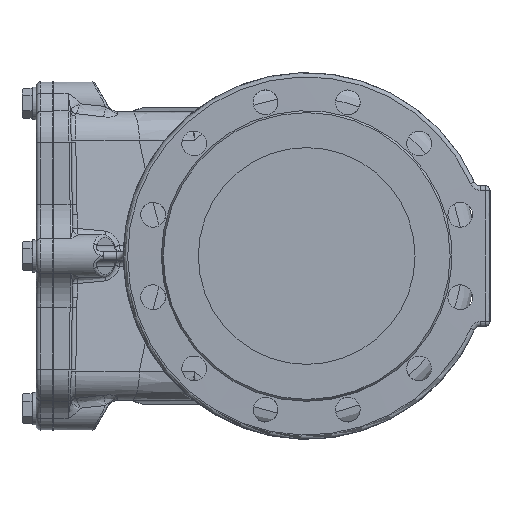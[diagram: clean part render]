
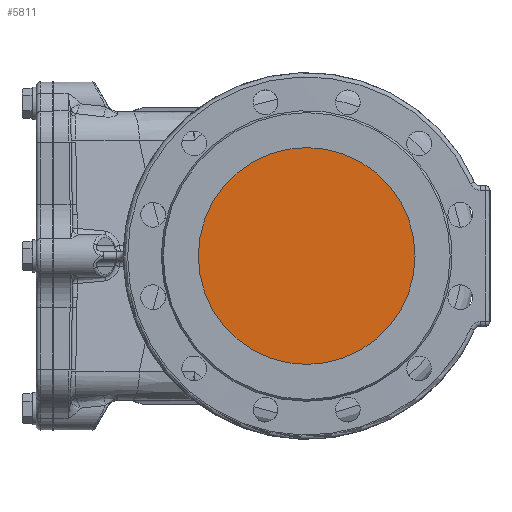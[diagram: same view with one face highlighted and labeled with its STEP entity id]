
A CAD part, left-side view. The second image highlights one B-rep face of the part: STEP entity #5811.
In plain terms, the highlighted planar face has unit normal (-1, 0, 0).
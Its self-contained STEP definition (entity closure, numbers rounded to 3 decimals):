
#5811=ADVANCED_FACE('',(#15798),#15800,.F.);
#15798=FACE_BOUND('',#15799,.T.);
#15799=EDGE_LOOP('',(#20249,#20250));
#15800=PLANE('',#15801);
#15801=AXIS2_PLACEMENT_3D('',#15802,#15803,#15804);
#15802=CARTESIAN_POINT('',(10.,0.,0.));
#15803=DIRECTION('',(1.,0.,0.));
#15804=DIRECTION('',(0.,0.,-1.));
#20249=ORIENTED_EDGE('',*,*,#22959,.T.);
#20250=ORIENTED_EDGE('',*,*,#22958,.T.);
#22958=EDGE_CURVE('',#25980,#25981,#25982,.T.);
#22959=EDGE_CURVE('',#25981,#25980,#25983,.T.);
#25980=VERTEX_POINT('',#80729);
#25981=VERTEX_POINT('',#80730);
#25982=CIRCLE('',#80731,100.5);
#25983=CIRCLE('',#80735,100.5);
#80729=CARTESIAN_POINT('',(10.,-100.5,0.));
#80730=CARTESIAN_POINT('',(10.,0.,-100.5));
#80731=AXIS2_PLACEMENT_3D('',#80732,#80733,#80734);
#80732=CARTESIAN_POINT('',(10.,0.,0.));
#80733=DIRECTION('',(-1.,0.,0.));
#80734=DIRECTION('',(0.,-1.,0.));
#80735=AXIS2_PLACEMENT_3D('',#80736,#80737,#80738);
#80736=CARTESIAN_POINT('',(10.,0.,0.));
#80737=DIRECTION('',(-1.,0.,0.));
#80738=DIRECTION('',(0.,0.,-1.));
